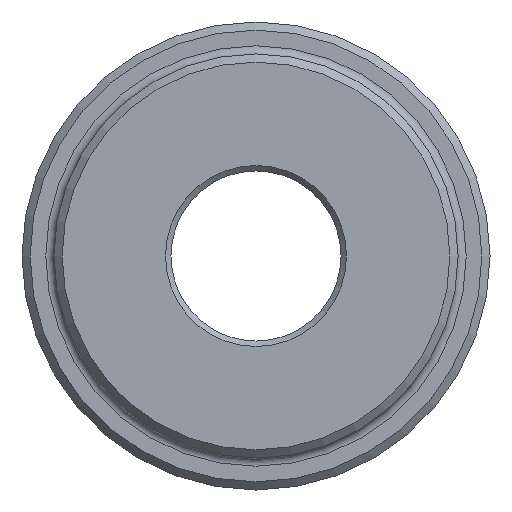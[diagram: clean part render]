
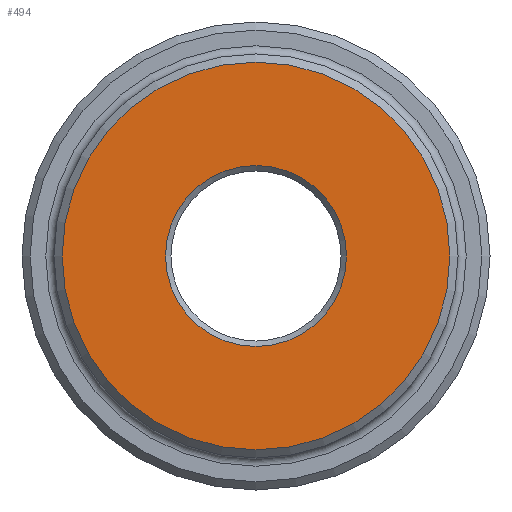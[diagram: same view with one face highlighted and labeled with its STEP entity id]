
A CAD part, left-side view. The second image highlights one B-rep face of the part: STEP entity #494.
In plain terms, the highlighted planar face has unit normal (-1, 0, 0).
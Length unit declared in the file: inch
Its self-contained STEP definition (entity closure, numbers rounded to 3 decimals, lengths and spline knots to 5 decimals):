
#75 = FACE_BOUND ( 'NONE', #1071, .T. ) ;
#89 = CARTESIAN_POINT ( 'NONE',  ( 0., 0., 0. ) ) ;
#119 = DIRECTION ( 'NONE',  ( -1., 0., 0. ) ) ;
#220 = DIRECTION ( 'NONE',  ( 1., 0., 0. ) ) ;
#223 = ORIENTED_EDGE ( 'NONE', *, *, #941, .T. ) ;
#350 = EDGE_CURVE ( 'NONE', #990, #990, #1171, .T. ) ;
#397 = DIRECTION ( 'NONE',  ( 0., 0., -1. ) ) ;
#424 = CARTESIAN_POINT ( 'NONE',  ( 0., 0., 0. ) ) ;
#494 = ADVANCED_FACE ( 'NONE', ( #75, #1204 ), #861, .F. ) ;
#675 = DIRECTION ( 'NONE',  ( 1., 0., 0. ) ) ;
#700 = CIRCLE ( 'NONE', #1843, 1.425 ) ;
#732 = CARTESIAN_POINT ( 'NONE',  ( 0., 0., -0.66525 ) ) ;
#770 = DIRECTION ( 'NONE',  ( 0., 0., -1. ) ) ;
#820 = CARTESIAN_POINT ( 'NONE',  ( 0., 0., -1.425 ) ) ;
#861 = PLANE ( 'NONE',  #1836 ) ;
#941 = EDGE_CURVE ( 'NONE', #1229, #1229, #700, .T. ) ;
#943 = CARTESIAN_POINT ( 'NONE',  ( 0., 0., 0. ) ) ;
#990 = VERTEX_POINT ( 'NONE', #732 ) ;
#1071 = EDGE_LOOP ( 'NONE', ( #1379 ) ) ;
#1171 = CIRCLE ( 'NONE', #1774, 0.66525 ) ;
#1204 = FACE_OUTER_BOUND ( 'NONE', #1545, .T. ) ;
#1229 = VERTEX_POINT ( 'NONE', #820 ) ;
#1379 = ORIENTED_EDGE ( 'NONE', *, *, #350, .T. ) ;
#1431 = DIRECTION ( 'NONE',  ( 0., 0., -1. ) ) ;
#1545 = EDGE_LOOP ( 'NONE', ( #223 ) ) ;
#1774 = AXIS2_PLACEMENT_3D ( 'NONE', #424, #220, #397 ) ;
#1836 = AXIS2_PLACEMENT_3D ( 'NONE', #943, #675, #770 ) ;
#1843 = AXIS2_PLACEMENT_3D ( 'NONE', #89, #119, #1431 ) ;
